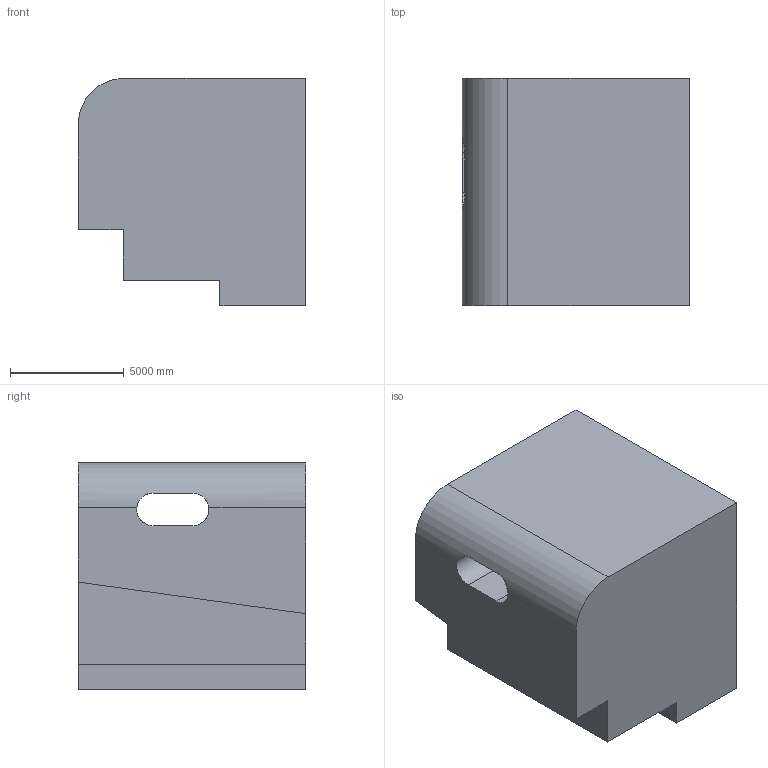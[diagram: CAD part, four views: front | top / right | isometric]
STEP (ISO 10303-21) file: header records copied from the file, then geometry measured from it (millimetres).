
FILE_DESCRIPTION (( 'STEP AP203' ), '1' );
FILE_NAME ('327.STEP', '2022-07-28T14:21:21', ( 'user' ), ( '' ), 'SwSTEP 2.0', 'SolidWorks 2021', '' );
FILE_SCHEMA (( 'CONFIG_CONTROL_DESIGN' ));
Length unit declared in the file: centimetre
Products named in the file (1): 327
Bounding box: 10000 x 10000 x 10000 mm (x, y, z)
Volume: 823137455564 mm3; surface area: 636003484.9 mm2
Topology: 1 solids, 1 shells, 15 faces, 42 edges, 28 vertices
Faces by surface type: plane 12, cylinder 3
Entity records: 669 total; most frequent: CARTESIAN_POINT 196, ORIENTED_EDGE 84, DIRECTION 78, EDGE_CURVE 42, VECTOR 34, LINE 34, VERTEX_POINT 28, AXIS2_PLACEMENT_3D 22
